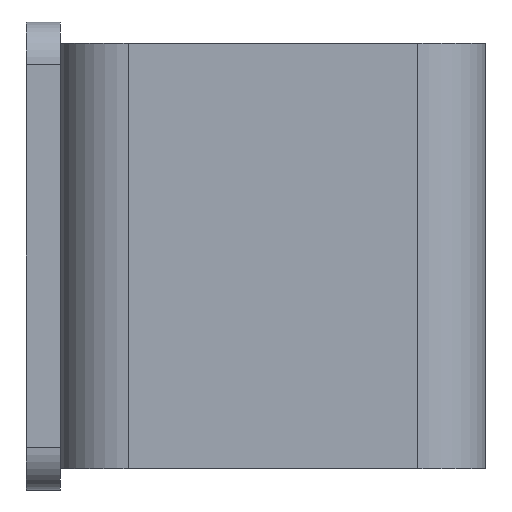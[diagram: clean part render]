
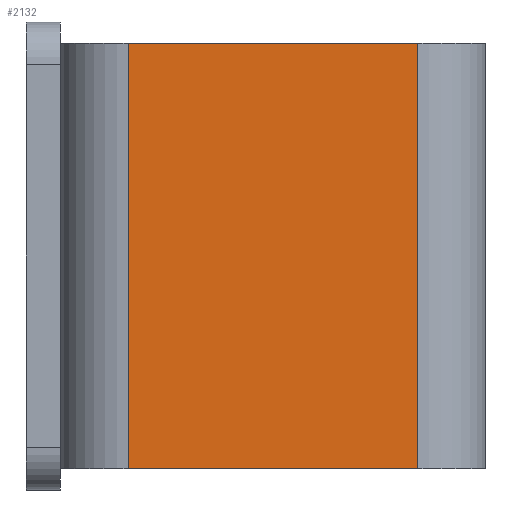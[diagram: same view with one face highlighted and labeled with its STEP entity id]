
A CAD part, left-side view. The second image highlights one B-rep face of the part: STEP entity #2132.
In plain terms, the highlighted planar face has unit normal (-1, 0, 0).
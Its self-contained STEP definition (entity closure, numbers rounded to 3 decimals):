
#870 = VECTOR ( 'NONE', #4616, 1000. ) ;
#943 = DIRECTION ( 'NONE',  ( -1., 0., 0. ) ) ;
#1163 = CARTESIAN_POINT ( 'NONE',  ( -50., -100., 0. ) ) ;
#1219 = DIRECTION ( 'NONE',  ( 0., -1., 0. ) ) ;
#1630 = VECTOR ( 'NONE', #10048, 1000. ) ;
#1871 = LINE ( 'NONE', #7817, #870 ) ;
#1896 = VECTOR ( 'NONE', #1219, 1000. ) ;
#2132 = ADVANCED_FACE ( 'NONE', ( #9504 ), #5207, .T. ) ;
#2228 = CARTESIAN_POINT ( 'NONE',  ( -50., -84., 0. ) ) ;
#2350 = ORIENTED_EDGE ( 'NONE', *, *, #6363, .T. ) ;
#2407 = CARTESIAN_POINT ( 'NONE',  ( -50., -100., -100. ) ) ;
#2533 = ORIENTED_EDGE ( 'NONE', *, *, #4954, .T. ) ;
#3172 = ORIENTED_EDGE ( 'NONE', *, *, #3280, .F. ) ;
#3280 = EDGE_CURVE ( 'NONE', #8292, #5739, #7183, .T. ) ;
#3301 = CARTESIAN_POINT ( 'NONE',  ( -50., -16., -100. ) ) ;
#3494 = DIRECTION ( 'NONE',  ( 0., -1., 0. ) ) ;
#3545 = CARTESIAN_POINT ( 'NONE',  ( -50., -100., -100. ) ) ;
#3651 = VERTEX_POINT ( 'NONE', #4681 ) ;
#4098 = AXIS2_PLACEMENT_3D ( 'NONE', #3545, #943, #3494 ) ;
#4616 = DIRECTION ( 'NONE',  ( 0., 0., 1. ) ) ;
#4681 = CARTESIAN_POINT ( 'NONE',  ( -50., -16., -100. ) ) ;
#4735 = LINE ( 'NONE', #3301, #1630 ) ;
#4783 = CARTESIAN_POINT ( 'NONE',  ( -50., -16., 0. ) ) ;
#4954 = EDGE_CURVE ( 'NONE', #8292, #3651, #4735, .T. ) ;
#5207 = PLANE ( 'NONE',  #4098 ) ;
#5739 = VERTEX_POINT ( 'NONE', #2228 ) ;
#5935 = EDGE_LOOP ( 'NONE', ( #3172, #2533, #2350, #8767 ) ) ;
#6363 = EDGE_CURVE ( 'NONE', #3651, #8883, #9306, .T. ) ;
#7183 = LINE ( 'NONE', #1163, #1896 ) ;
#7194 = EDGE_CURVE ( 'NONE', #8883, #5739, #1871, .T. ) ;
#7817 = CARTESIAN_POINT ( 'NONE',  ( -50., -84., -100. ) ) ;
#8292 = VERTEX_POINT ( 'NONE', #4783 ) ;
#8767 = ORIENTED_EDGE ( 'NONE', *, *, #7194, .T. ) ;
#8883 = VERTEX_POINT ( 'NONE', #10601 ) ;
#9306 = LINE ( 'NONE', #2407, #9539 ) ;
#9504 = FACE_OUTER_BOUND ( 'NONE', #5935, .T. ) ;
#9539 = VECTOR ( 'NONE', #10871, 1000. ) ;
#10048 = DIRECTION ( 'NONE',  ( 0., 0., -1. ) ) ;
#10601 = CARTESIAN_POINT ( 'NONE',  ( -50., -84., -100. ) ) ;
#10871 = DIRECTION ( 'NONE',  ( 0., -1., 0. ) ) ;
